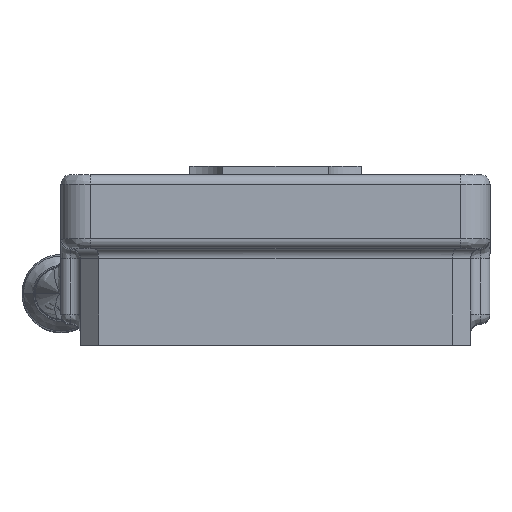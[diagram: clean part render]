
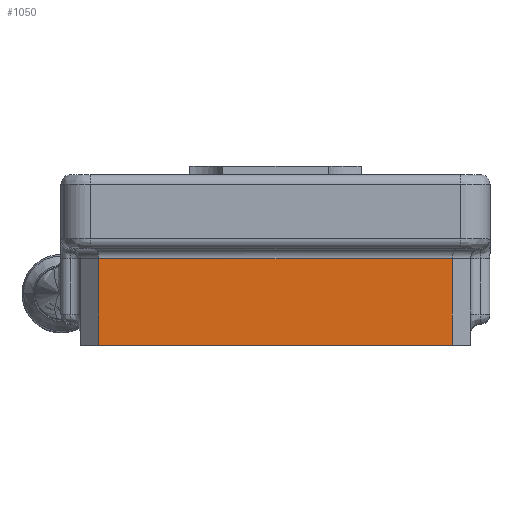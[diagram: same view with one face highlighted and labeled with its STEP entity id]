
A CAD part, top view. The second image highlights one B-rep face of the part: STEP entity #1050.
In plain terms, the highlighted planar face has unit normal (0, 0, 1).
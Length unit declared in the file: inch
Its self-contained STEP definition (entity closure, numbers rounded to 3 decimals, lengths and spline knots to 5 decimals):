
#4 = CARTESIAN_POINT ( 'NONE',  ( -0.907, 0., 1. ) ) ;
#86 = LINE ( 'NONE', #2121, #3256 ) ;
#89 = EDGE_CURVE ( 'NONE', #2720, #2132, #268, .T. ) ;
#243 = ORIENTED_EDGE ( 'NONE', *, *, #893, .F. ) ;
#268 = LINE ( 'NONE', #4413, #2181 ) ;
#547 = ORIENTED_EDGE ( 'NONE', *, *, #89, .F. ) ;
#803 = VERTEX_POINT ( 'NONE', #991 ) ;
#817 = FACE_OUTER_BOUND ( 'NONE', #3499, .T. ) ;
#893 = EDGE_CURVE ( 'NONE', #803, #2350, #3288, .T. ) ;
#991 = CARTESIAN_POINT ( 'NONE',  ( 0.907, 0.445, 1. ) ) ;
#1037 = VECTOR ( 'NONE', #3826, 39.37008 ) ;
#1050 = ADVANCED_FACE ( 'NONE', ( #817 ), #3049, .F. ) ;
#1071 = ORIENTED_EDGE ( 'NONE', *, *, #3904, .F. ) ;
#1467 = DIRECTION ( 'NONE',  ( -1., 0., 0. ) ) ;
#2121 = CARTESIAN_POINT ( 'NONE',  ( -0.907, 0., 1. ) ) ;
#2132 = VERTEX_POINT ( 'NONE', #2586 ) ;
#2181 = VECTOR ( 'NONE', #3746, 39.37008 ) ;
#2277 = CARTESIAN_POINT ( 'NONE',  ( -0.907, 0.92, 1. ) ) ;
#2341 = DIRECTION ( 'NONE',  ( 0., 0., -1. ) ) ;
#2350 = VERTEX_POINT ( 'NONE', #2418 ) ;
#2418 = CARTESIAN_POINT ( 'NONE',  ( 0.907, 0., 1. ) ) ;
#2586 = CARTESIAN_POINT ( 'NONE',  ( -0.907, 0.445, 1. ) ) ;
#2720 = VERTEX_POINT ( 'NONE', #4 ) ;
#2832 = DIRECTION ( 'NONE',  ( -1., 0., 0. ) ) ;
#2989 = ORIENTED_EDGE ( 'NONE', *, *, #3003, .T. ) ;
#3003 = EDGE_CURVE ( 'NONE', #803, #2132, #4323, .T. ) ;
#3049 = PLANE ( 'NONE',  #3598 ) ;
#3256 = VECTOR ( 'NONE', #1467, 39.37008 ) ;
#3288 = LINE ( 'NONE', #3838, #1037 ) ;
#3499 = EDGE_LOOP ( 'NONE', ( #2989, #547, #1071, #243 ) ) ;
#3598 = AXIS2_PLACEMENT_3D ( 'NONE', #2277, #2341, #4402 ) ;
#3737 = VECTOR ( 'NONE', #2832, 39.37008 ) ;
#3746 = DIRECTION ( 'NONE',  ( 0., 1., 0. ) ) ;
#3777 = CARTESIAN_POINT ( 'NONE',  ( -0.907, 0.445, 1. ) ) ;
#3826 = DIRECTION ( 'NONE',  ( 0., -1., 0. ) ) ;
#3838 = CARTESIAN_POINT ( 'NONE',  ( 0.907, 0.92, 1. ) ) ;
#3904 = EDGE_CURVE ( 'NONE', #2350, #2720, #86, .T. ) ;
#4323 = LINE ( 'NONE', #3777, #3737 ) ;
#4402 = DIRECTION ( 'NONE',  ( -1., 0., 0. ) ) ;
#4413 = CARTESIAN_POINT ( 'NONE',  ( -0.907, 0.92, 1. ) ) ;
